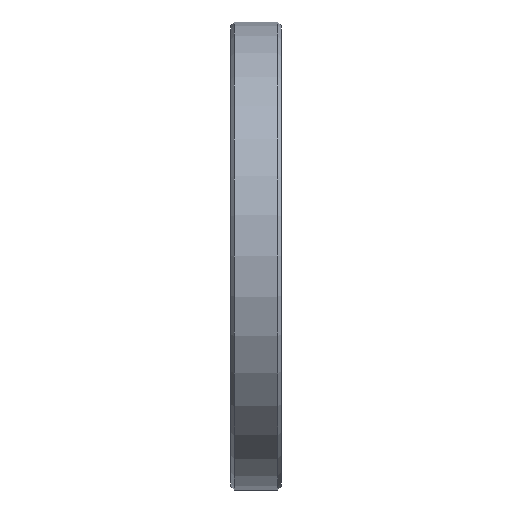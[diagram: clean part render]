
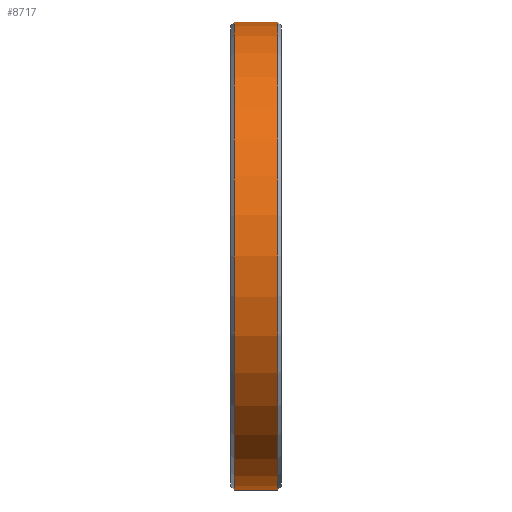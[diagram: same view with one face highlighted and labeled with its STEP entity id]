
A CAD part, left-side view. The second image highlights one B-rep face of the part: STEP entity #8717.
In plain terms, the highlighted cylindrical face has radius 32.5 mm (diameter 65 mm), a partial arc.
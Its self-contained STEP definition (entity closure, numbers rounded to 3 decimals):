
#309 = CYLINDRICAL_SURFACE ( 'NONE', #2188, 32.5 ) ;
#808 = DIRECTION ( 'NONE',  ( 0., 1., 0. ) ) ;
#1411 = EDGE_CURVE ( 'NONE', #2964, #2889, #7289, .T. ) ;
#2159 = DIRECTION ( 'NONE',  ( 0., -1., 0. ) ) ;
#2188 = AXIS2_PLACEMENT_3D ( 'NONE', #8888, #3752, #10539 ) ;
#2333 = EDGE_CURVE ( 'NONE', #4291, #9131, #6077, .T. ) ;
#2516 = EDGE_CURVE ( 'NONE', #2964, #4291, #6233, .T. ) ;
#2889 = VERTEX_POINT ( 'NONE', #9491 ) ;
#2964 = VERTEX_POINT ( 'NONE', #7980 ) ;
#3292 = CARTESIAN_POINT ( 'NONE',  ( 0., -3.01, -32.5 ) ) ;
#3320 = VECTOR ( 'NONE', #2159, 1000. ) ;
#3372 = VECTOR ( 'NONE', #7900, 1000. ) ;
#3752 = DIRECTION ( 'NONE',  ( 0., -1., 0. ) ) ;
#4291 = VERTEX_POINT ( 'NONE', #9221 ) ;
#4339 = EDGE_CURVE ( 'NONE', #9131, #2889, #9196, .T. ) ;
#5592 = AXIS2_PLACEMENT_3D ( 'NONE', #6669, #808, #11042 ) ;
#5892 = CARTESIAN_POINT ( 'NONE',  ( 0., 3.01, 0. ) ) ;
#6077 = LINE ( 'NONE', #9530, #3372 ) ;
#6233 = CIRCLE ( 'NONE', #6416, 32.5 ) ;
#6416 = AXIS2_PLACEMENT_3D ( 'NONE', #5892, #10150, #7492 ) ;
#6669 = CARTESIAN_POINT ( 'NONE',  ( 0., -3.01, 0. ) ) ;
#7289 = LINE ( 'NONE', #9884, #3320 ) ;
#7427 = ORIENTED_EDGE ( 'NONE', *, *, #1411, .F. ) ;
#7492 = DIRECTION ( 'NONE',  ( 0., 0., 1. ) ) ;
#7900 = DIRECTION ( 'NONE',  ( 0., -1., 0. ) ) ;
#7980 = CARTESIAN_POINT ( 'NONE',  ( 0., 3.01, 32.5 ) ) ;
#7989 = FACE_OUTER_BOUND ( 'NONE', #9434, .T. ) ;
#8177 = ORIENTED_EDGE ( 'NONE', *, *, #2333, .T. ) ;
#8717 = ADVANCED_FACE ( 'NONE', ( #7989 ), #309, .T. ) ;
#8888 = CARTESIAN_POINT ( 'NONE',  ( 0., 0., 0. ) ) ;
#9131 = VERTEX_POINT ( 'NONE', #3292 ) ;
#9196 = CIRCLE ( 'NONE', #5592, 32.5 ) ;
#9221 = CARTESIAN_POINT ( 'NONE',  ( 0., 3.01, -32.5 ) ) ;
#9434 = EDGE_LOOP ( 'NONE', ( #7427, #10181, #8177, #9926 ) ) ;
#9491 = CARTESIAN_POINT ( 'NONE',  ( 0., -3.01, 32.5 ) ) ;
#9530 = CARTESIAN_POINT ( 'NONE',  ( 0., 0., -32.5 ) ) ;
#9884 = CARTESIAN_POINT ( 'NONE',  ( 0., 0., 32.5 ) ) ;
#9926 = ORIENTED_EDGE ( 'NONE', *, *, #4339, .T. ) ;
#10150 = DIRECTION ( 'NONE',  ( 0., -1., 0. ) ) ;
#10181 = ORIENTED_EDGE ( 'NONE', *, *, #2516, .T. ) ;
#10539 = DIRECTION ( 'NONE',  ( 0., 0., -1. ) ) ;
#11042 = DIRECTION ( 'NONE',  ( 0., 0., -1. ) ) ;
